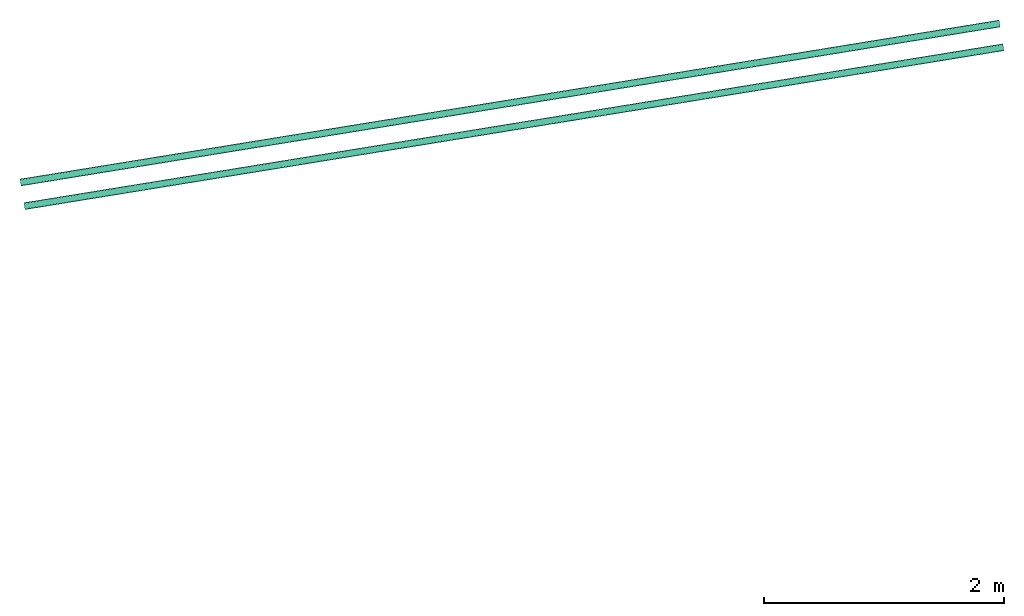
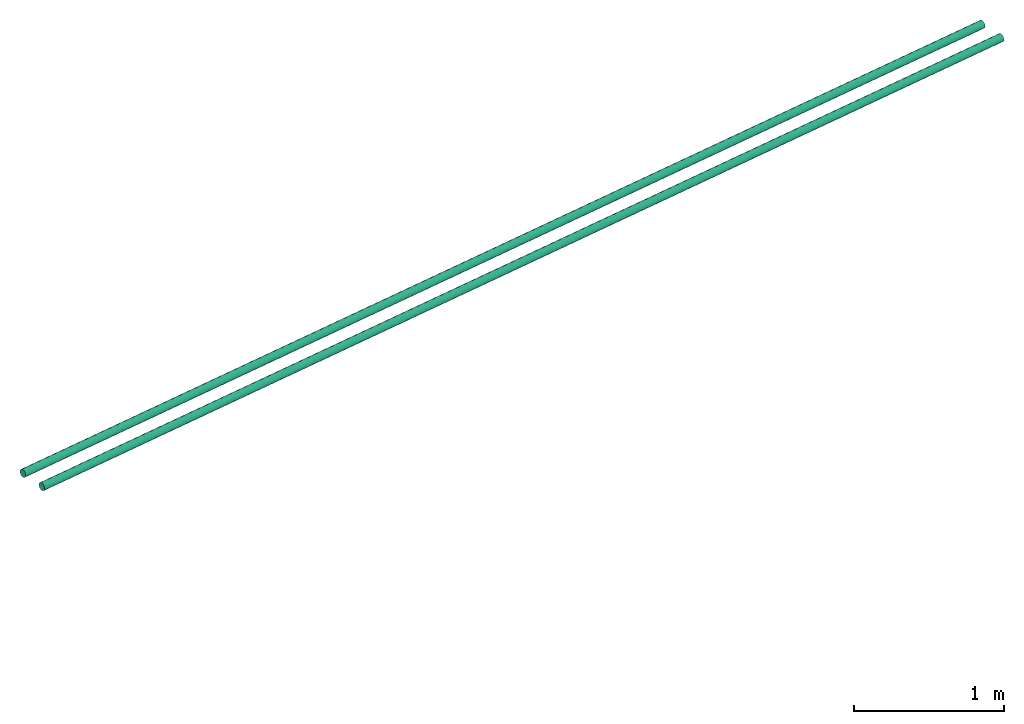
# One storey, part 2 of 2: 2 flow segments.
"""IFC2X3 building model written with IfcOpenShell, lengths in millimetres."""

from ifc_helpers import new_model, entity, si_unit, converted_unit, derived_unit, direction, frame, origin, origin_with_axes, place, context, subcontext, project, spatial, faceted_brep, type_object, element, save


model = new_model("IFC2X3")

# Units and contexts
plan_context = context("Plan", 3, precision=1e-05, world=origin_with_axes())
model_context = context("Model", 3, precision=0.01, world=origin(), true_north=direction((6.12323399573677e-17, 1.0)))
body_context = subcontext(model_context, "Body", "Model", "MODEL_VIEW")
ifc_project = project(units=[converted_unit("PLANEANGLEUNIT", "DEGREE", entity("IfcPositiveLengthMeasure", 0.0174532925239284), si_unit("PLANEANGLEUNIT", "RADIAN"), dimensions=[0, 0, 0, 0, 0, 0, 0]), si_unit("AREAUNIT", "SQUARE_METRE"), si_unit("LENGTHUNIT", "METRE", prefix="MILLI"), si_unit("MASSUNIT", "GRAM", prefix="KILO"), si_unit("POWERUNIT", "WATT"), si_unit("PRESSUREUNIT", "PASCAL", prefix="KILO"), si_unit("FORCEUNIT", "NEWTON", prefix="KILO"), si_unit("ELECTRICVOLTAGEUNIT", "VOLT"), si_unit("ELECTRICCURRENTUNIT", "AMPERE"), si_unit("THERMODYNAMICTEMPERATUREUNIT", "DEGREE_CELSIUS"), si_unit("TIMEUNIT", "SECOND"), si_unit("VOLUMEUNIT", "CUBIC_METRE"), derived_unit("LINEARVELOCITYUNIT", [(si_unit("LENGTHUNIT", "METRE"), 1), (si_unit("TIMEUNIT", "SECOND"), -1)]), derived_unit("VOLUMETRICFLOWRATEUNIT", [(si_unit("VOLUMEUNIT", "CUBIC_METRE"), 1), (si_unit("TIMEUNIT", "SECOND"), -1)]), derived_unit("THERMALTRANSMITTANCEUNIT", [(si_unit("POWERUNIT", "WATT"), 1), (si_unit("THERMODYNAMICTEMPERATUREUNIT", "KELVIN"), -1), (si_unit("AREAUNIT", "SQUARE_METRE"), -1)]), derived_unit("SOUNDPRESSUREUNIT", [(si_unit("PRESSUREUNIT", "PASCAL"), 1)])], contexts=[model_context, plan_context])

# Site, building, storey
site_placement = place(None, frame((-0.00071070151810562, 0.00438415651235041, 0.0), z_axis=(0.0, 0.0, 1.0), x_axis=(-0.160236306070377, 0.987078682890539, 0.0)))
site = spatial("IfcSite", under=ifc_project, at=site_placement, Name="Default", CompositionType="ELEMENT")
building_placement = place(site_placement, origin_with_axes())
building = spatial("IfcBuilding", under=site, at=building_placement, CompositionType="ELEMENT")
storey_placement = place(building_placement, frame((0.0, 0.0, 55630.0), z_axis=(0.0, 0.0, 1.0), x_axis=(1.0, 0.0, 0.0)))
storey = spatial("IfcBuildingStorey", under=building, at=storey_placement, Name="Nivå E", CompositionType="ELEMENT", Elevation=55630.0)

# Flow segments
pipe_segment_type = type_object("IfcPipeSegmentType", Name="Pipe Types:Stålrør syrefast AISI 316", PredefinedType="NOTDEFINED")
flow_segment_1_placement = place(storey_placement, origin_with_axes())
element("IfcFlowSegment", 1, at=flow_segment_1_placement, inside=storey, type_object=pipe_segment_type, Name="Pipe Types:Stålrør syrefast AISI 316", ObjectType="Pipe Types:Stålrør syrefast AISI 316", context=body_context, shape_type="Brep", body=[
    faceted_brep([(778547.879019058, -500902.480498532, 2494.76450750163), (778547.420972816, -500902.480498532, 2500.0), (778547.420972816, -509171.525649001, 2500.0), (778547.879019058, -509171.525649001, 2494.76450750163), (778547.879019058, -500902.480498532, 2505.23549249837), (778547.879019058, -509171.525649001, 2505.23549249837), (778549.239240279, -500902.480498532, 2510.31190720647), (778549.239240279, -509171.525649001, 2510.31190720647), (778551.460306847, -500902.480498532, 2515.07499983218), (778551.460306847, -509171.525649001, 2515.07499983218), (778554.474732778, -500902.480498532, 2519.3800462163), (778554.474732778, -509171.525649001, 2519.3800462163), (778558.190926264, -500902.480498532, 2523.09623970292), (778558.190926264, -509171.525649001, 2523.09623970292), (778562.495972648, -500902.480498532, 2526.11066563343), (778562.495972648, -509171.525649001, 2526.11066563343), (778567.259065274, -500902.480498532, 2528.33173220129), (778567.259065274, -509171.525649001, 2528.33173220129), (778572.335479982, -500902.480498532, 2529.69195342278), (778572.335479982, -509171.525649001, 2529.69195342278), (778577.57097248, -500902.480498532, 2530.14999966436), (778577.57097248, -509171.525649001, 2530.14999966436), (778582.806464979, -500902.480498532, 2529.69195342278), (778582.806464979, -509171.525649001, 2529.69195342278), (778587.882879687, -500902.480498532, 2528.33173220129), (778587.882879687, -509171.525649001, 2528.33173220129), (778592.645972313, -500902.480498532, 2526.11066563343), (778592.645972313, -509171.525649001, 2526.11066563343), (778596.951018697, -500902.480498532, 2523.09623970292), (778596.951018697, -509171.525649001, 2523.09623970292), (778600.667212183, -500902.480498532, 2519.3800462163), (778600.667212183, -509171.525649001, 2519.3800462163), (778603.681638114, -500902.480498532, 2515.07499983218), (778603.681638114, -509171.525649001, 2515.07499983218), (778605.902704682, -500902.480498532, 2510.31190720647), (778605.902704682, -509171.525649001, 2510.31190720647), (778607.262925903, -500902.480498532, 2505.23549249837), (778607.262925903, -509171.525649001, 2505.23549249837), (778607.720972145, -500902.480498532, 2500.0), (778607.720972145, -509171.525649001, 2500.0), (778607.262925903, -500902.480498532, 2494.76450750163), (778607.262925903, -509171.525649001, 2494.76450750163), (778605.902704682, -500902.480498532, 2489.68809279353), (778605.902704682, -509171.525649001, 2489.68809279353), (778603.681638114, -500902.480498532, 2484.92500016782), (778603.681638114, -509171.525649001, 2484.92500016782), (778600.667212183, -500902.480498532, 2480.6199537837), (778600.667212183, -509171.525649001, 2480.6199537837), (778596.951018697, -500902.480498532, 2476.90376029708), (778596.951018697, -509171.525649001, 2476.90376029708), (778592.645972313, -500902.480498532, 2473.88933436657), (778592.645972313, -509171.525649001, 2473.88933436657), (778587.882879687, -500902.480498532, 2471.66826779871), (778587.882879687, -509171.525649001, 2471.66826779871), (778582.806464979, -500902.480498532, 2470.30804657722), (778582.806464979, -509171.525649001, 2470.30804657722), (778577.57097248, -500902.480498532, 2469.85000033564), (778577.57097248, -509171.525649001, 2469.85000033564), (778572.335479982, -500902.480498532, 2470.30804657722), (778572.335479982, -509171.525649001, 2470.30804657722), (778567.259065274, -500902.480498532, 2471.66826779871), (778567.259065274, -509171.525649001, 2471.66826779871), (778562.495972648, -500902.480498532, 2473.88933436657), (778562.495972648, -509171.525649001, 2473.88933436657), (778558.190926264, -500902.480498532, 2476.90376029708), (778558.190926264, -509171.525649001, 2476.90376029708), (778554.474732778, -500902.480498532, 2480.6199537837), (778554.474732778, -509171.525649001, 2480.6199537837), (778551.460306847, -500902.480498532, 2484.92500016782), (778551.460306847, -509171.525649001, 2484.92500016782), (778549.239240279, -500902.480498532, 2489.68809279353), (778549.239240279, -509171.525649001, 2489.68809279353)], [[[0, 1, 2, 3]], [[1, 4, 5, 2]], [[4, 6, 7, 5]], [[6, 8, 9, 7]], [[8, 10, 11, 9]], [[10, 12, 13, 11]], [[12, 14, 15, 13]], [[14, 16, 17, 15]], [[16, 18, 19, 17]], [[18, 20, 21, 19]], [[20, 22, 23, 21]], [[22, 24, 25, 23]], [[24, 26, 27, 25]], [[26, 28, 29, 27]], [[28, 30, 31, 29]], [[30, 32, 33, 31]], [[32, 34, 35, 33]], [[34, 36, 37, 35]], [[36, 38, 39, 37]], [[38, 40, 41, 39]], [[40, 42, 43, 41]], [[42, 44, 45, 43]], [[44, 46, 47, 45]], [[46, 48, 49, 47]], [[48, 50, 51, 49]], [[50, 52, 53, 51]], [[52, 54, 55, 53]], [[54, 56, 57, 55]], [[56, 58, 59, 57]], [[58, 60, 61, 59]], [[60, 62, 63, 61]], [[62, 64, 65, 63]], [[64, 66, 67, 65]], [[66, 68, 69, 67]], [[68, 70, 71, 69]], [[70, 0, 3, 71]], [[3, 2, 5, 7, 9, 11, 13, 15, 17, 19, 21, 23, 25, 27, 29, 31, 33, 35, 37, 39, 41, 43, 45, 47, 49, 51, 53, 55, 57, 59, 61, 63, 65, 67, 69, 71]], [[70, 68, 66, 64, 62, 60, 58, 56, 54, 52, 50, 48, 46, 44, 42, 40, 38, 36, 34, 32, 30, 28, 26, 24, 22, 20, 18, 16, 14, 12, 10, 8, 6, 4, 1, 0]]], orient=[[False], [False], [False], [False], [False], [False], [False], [False], [False], [False], [False], [False], [False], [False], [False], [False], [False], [False], [False], [False], [False], [False], [False], [False], [False], [False], [False], [False], [False], [False], [False], [False], [False], [False], [False], [False], [False], [False]]),
])
flow_segment_2_placement = place(storey_placement, origin_with_axes())
element("IfcFlowSegment", 2, at=flow_segment_2_placement, inside=storey, type_object=pipe_segment_type, Name="Pipe Types:Stålrør syrefast AISI 316", ObjectType="Pipe Types:Stålrør syrefast AISI 316", context=body_context, shape_type="Brep", body=[
    faceted_brep([(778747.852539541, -500902.480498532, 2494.76450750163), (778747.394493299, -500902.480498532, 2500.0), (778747.394493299, -509172.094497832, 2500.0), (778747.852539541, -509172.094497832, 2494.76450750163), (778747.852539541, -500902.480498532, 2505.23549249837), (778747.852539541, -509172.094497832, 2505.23549249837), (778749.212760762, -500902.480498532, 2510.31190720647), (778749.212760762, -509172.094497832, 2510.31190720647), (778751.43382733, -500902.480498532, 2515.07499983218), (778751.43382733, -509172.094497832, 2515.07499983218), (778754.448253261, -500902.480498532, 2519.3800462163), (778754.448253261, -509172.094497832, 2519.3800462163), (778758.164446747, -500902.480498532, 2523.09623970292), (778758.164446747, -509172.094497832, 2523.09623970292), (778762.469493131, -500902.480498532, 2526.11066563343), (778762.469493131, -509172.094497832, 2526.11066563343), (778767.232585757, -500902.480498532, 2528.33173220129), (778767.232585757, -509172.094497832, 2528.33173220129), (778772.309000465, -500902.480498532, 2529.69195342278), (778772.309000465, -509172.094497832, 2529.69195342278), (778777.544492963, -500902.480498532, 2530.14999966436), (778777.544492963, -509172.094497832, 2530.14999966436), (778782.779985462, -500902.480498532, 2529.69195342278), (778782.779985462, -509172.094497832, 2529.69195342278), (778787.85640017, -500902.480498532, 2528.33173220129), (778787.85640017, -509172.094497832, 2528.33173220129), (778792.619492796, -500902.480498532, 2526.11066563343), (778792.619492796, -509172.094497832, 2526.11066563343), (778796.92453918, -500902.480498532, 2523.09623970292), (778796.92453918, -509172.094497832, 2523.09623970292), (778800.640732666, -500902.480498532, 2519.3800462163), (778800.640732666, -509172.094497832, 2519.3800462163), (778803.655158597, -500902.480498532, 2515.07499983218), (778803.655158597, -509172.094497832, 2515.07499983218), (778805.876225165, -500902.480498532, 2510.31190720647), (778805.876225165, -509172.094497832, 2510.31190720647), (778807.236446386, -500902.480498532, 2505.23549249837), (778807.236446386, -509172.094497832, 2505.23549249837), (778807.694492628, -500902.480498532, 2500.0), (778807.694492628, -509172.094497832, 2500.0), (778807.236446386, -500902.480498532, 2494.76450750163), (778807.236446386, -509172.094497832, 2494.76450750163), (778805.876225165, -500902.480498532, 2489.68809279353), (778805.876225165, -509172.094497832, 2489.68809279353), (778803.655158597, -500902.480498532, 2484.92500016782), (778803.655158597, -509172.094497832, 2484.92500016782), (778800.640732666, -500902.480498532, 2480.6199537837), (778800.640732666, -509172.094497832, 2480.6199537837), (778796.92453918, -500902.480498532, 2476.90376029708), (778796.92453918, -509172.094497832, 2476.90376029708), (778792.619492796, -500902.480498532, 2473.88933436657), (778792.619492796, -509172.094497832, 2473.88933436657), (778787.85640017, -500902.480498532, 2471.66826779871), (778787.85640017, -509172.094497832, 2471.66826779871), (778782.779985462, -500902.480498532, 2470.30804657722), (778782.779985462, -509172.094497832, 2470.30804657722), (778777.544492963, -500902.480498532, 2469.85000033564), (778777.544492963, -509172.094497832, 2469.85000033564), (778772.309000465, -500902.480498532, 2470.30804657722), (778772.309000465, -509172.094497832, 2470.30804657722), (778767.232585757, -500902.480498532, 2471.66826779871), (778767.232585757, -509172.094497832, 2471.66826779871), (778762.469493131, -500902.480498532, 2473.88933436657), (778762.469493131, -509172.094497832, 2473.88933436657), (778758.164446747, -500902.480498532, 2476.90376029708), (778758.164446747, -509172.094497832, 2476.90376029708), (778754.448253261, -500902.480498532, 2480.6199537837), (778754.448253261, -509172.094497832, 2480.6199537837), (778751.43382733, -500902.480498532, 2484.92500016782), (778751.43382733, -509172.094497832, 2484.92500016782), (778749.212760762, -500902.480498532, 2489.68809279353), (778749.212760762, -509172.094497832, 2489.68809279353)], [[[0, 1, 2, 3]], [[1, 4, 5, 2]], [[4, 6, 7, 5]], [[6, 8, 9, 7]], [[8, 10, 11, 9]], [[10, 12, 13, 11]], [[12, 14, 15, 13]], [[14, 16, 17, 15]], [[16, 18, 19, 17]], [[18, 20, 21, 19]], [[20, 22, 23, 21]], [[22, 24, 25, 23]], [[24, 26, 27, 25]], [[26, 28, 29, 27]], [[28, 30, 31, 29]], [[30, 32, 33, 31]], [[32, 34, 35, 33]], [[34, 36, 37, 35]], [[36, 38, 39, 37]], [[38, 40, 41, 39]], [[40, 42, 43, 41]], [[42, 44, 45, 43]], [[44, 46, 47, 45]], [[46, 48, 49, 47]], [[48, 50, 51, 49]], [[50, 52, 53, 51]], [[52, 54, 55, 53]], [[54, 56, 57, 55]], [[56, 58, 59, 57]], [[58, 60, 61, 59]], [[60, 62, 63, 61]], [[62, 64, 65, 63]], [[64, 66, 67, 65]], [[66, 68, 69, 67]], [[68, 70, 71, 69]], [[70, 0, 3, 71]], [[3, 2, 5, 7, 9, 11, 13, 15, 17, 19, 21, 23, 25, 27, 29, 31, 33, 35, 37, 39, 41, 43, 45, 47, 49, 51, 53, 55, 57, 59, 61, 63, 65, 67, 69, 71]], [[70, 68, 66, 64, 62, 60, 58, 56, 54, 52, 50, 48, 46, 44, 42, 40, 38, 36, 34, 32, 30, 28, 26, 24, 22, 20, 18, 16, 14, 12, 10, 8, 6, 4, 1, 0]]], orient=[[False], [False], [False], [False], [False], [False], [False], [False], [False], [False], [False], [False], [False], [False], [False], [False], [False], [False], [False], [False], [False], [False], [False], [False], [False], [False], [False], [False], [False], [False], [False], [False], [False], [False], [False], [False], [False], [False]]),
])

save(model, "model.ifc")
